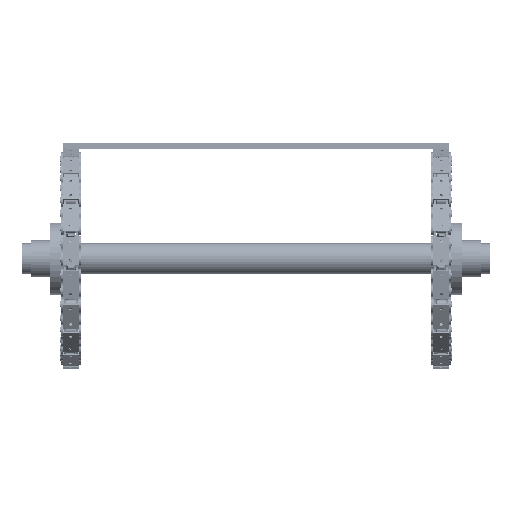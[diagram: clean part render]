
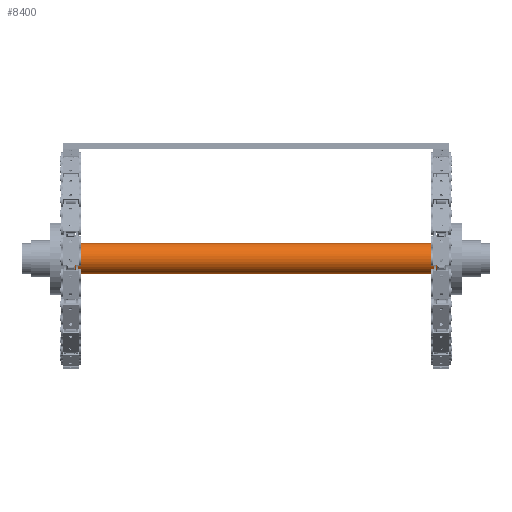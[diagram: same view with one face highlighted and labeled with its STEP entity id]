
A CAD part, left-side view. The second image highlights one B-rep face of the part: STEP entity #8400.
In plain terms, the highlighted cylindrical face has radius 25 mm (diameter 50 mm), a full revolution.
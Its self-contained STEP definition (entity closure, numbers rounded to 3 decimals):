
#4686=ORIENTED_EDGE('',*,*,#5749,.F.);
#4687=ORIENTED_EDGE('',*,*,#5748,.F.);
#5748=EDGE_CURVE('',#6467,#6467,#6834,.F.);
#5749=EDGE_CURVE('',#6468,#6468,#6835,.F.);
#6467=VERTEX_POINT('',#18549);
#6468=VERTEX_POINT('',#18552);
#6834=CIRCLE('',#9715,25.);
#6835=CIRCLE('',#9717,25.);
#7301=EDGE_LOOP('',(#4686));
#7302=EDGE_LOOP('',(#4687));
#7779=FACE_BOUND('',#7301,.T.);
#7780=FACE_BOUND('',#7302,.T.);
#8010=CYLINDRICAL_SURFACE('',#9716,25.);
#8400=ADVANCED_FACE('',(#7779,#7780),#8010,.T.);
#9715=AXIS2_PLACEMENT_3D('',#18548,#12191,#12192);
#9716=AXIS2_PLACEMENT_3D('',#18550,#12193,#12194);
#9717=AXIS2_PLACEMENT_3D('',#18551,#12195,#12196);
#12191=DIRECTION('',(0.,1.,0.));
#12192=DIRECTION('',(0.,0.,1.));
#12193=DIRECTION('',(0.,1.,0.));
#12194=DIRECTION('',(0.,0.,1.));
#12195=DIRECTION('',(0.,-1.,0.));
#12196=DIRECTION('',(0.,0.,-1.));
#18548=CARTESIAN_POINT('',(0.,-334.,0.));
#18549=CARTESIAN_POINT('',(0.,-334.,25.));
#18550=CARTESIAN_POINT('',(0.,-379.,0.));
#18551=CARTESIAN_POINT('',(0.,334.,0.));
#18552=CARTESIAN_POINT('',(0.,334.,-25.));
